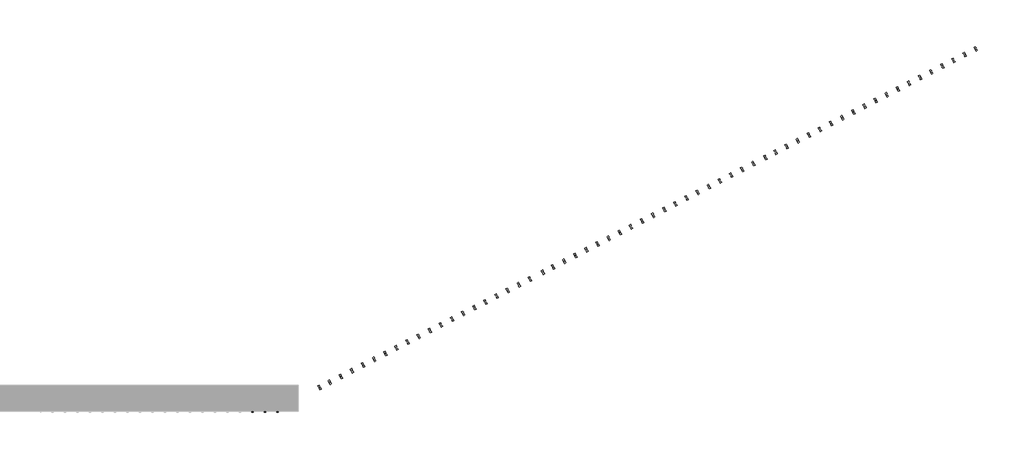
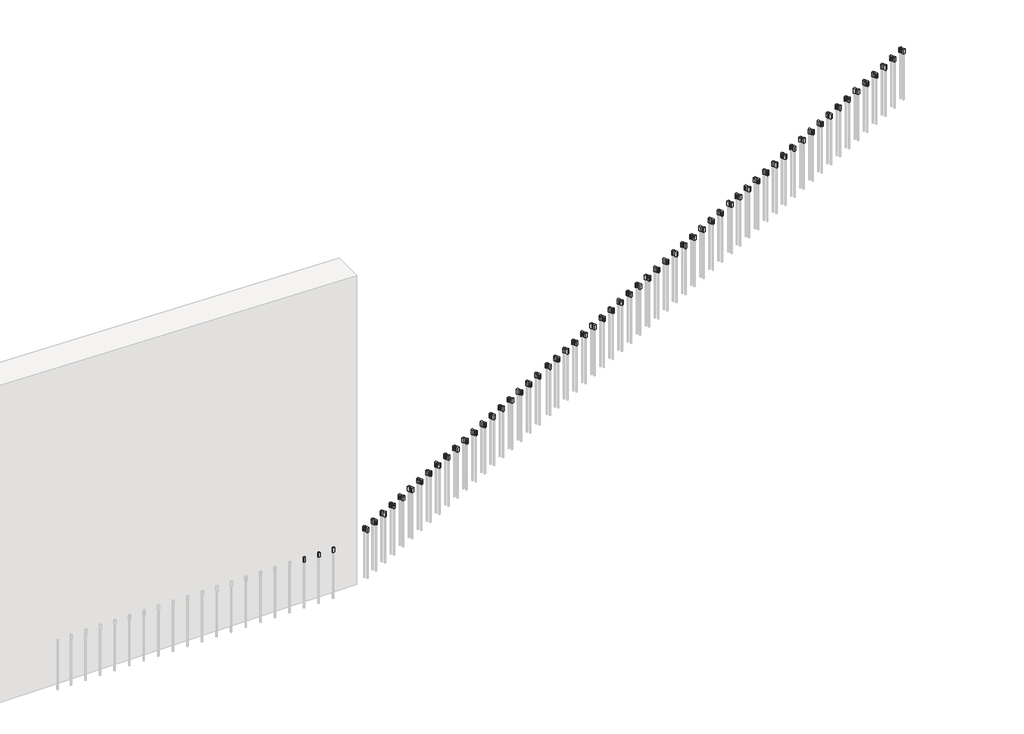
# One storey, part 7 of 7: 130 proxies.
"""IFC4 building model written with IfcOpenShell, lengths in millimetres."""

from ifc_helpers import new_model, si_unit, origin, place, context, project, spatial, transform, mapped, element, save
from components import generic_models_e9040c9c

model = new_model("IFC4")

# Units and contexts
model_context = context("Model", 3, world=origin())
ifc_project = project(units=[si_unit("LENGTHUNIT", "METRE", prefix="MILLI")], contexts=[model_context])

# Site, building, storey
site = spatial("IfcSite", under=ifc_project)
building = spatial("IfcBuilding", under=site)
storey = spatial("IfcBuildingStorey", under=building, Name="Niveau bas piédroits", Elevation=1000.0)

# Proxies
placement = place(None, origin())
generic_models_shape = generic_models_e9040c9c(model_context)
element("IfcBuildingElementProxy", 1, Name="Bouchon de sécurité vertical : Bouchon de sécurité vertical", ObjectType="Bouchon de sécurité vertical : Bouchon de sécurité vertical", at=placement, inside=storey, context=model_context, shape_type="MappedRepresentation", body=[
    mapped(generic_models_shape, transform((10170.5759064, 5057.4338661, 1708.9775513), x_axis=(1.0, 0.0, 0.0), y_axis=(0.0, 1.0, 0.0), z_axis=(0.0, 0.0, 1.0))),
])
element("IfcBuildingElementProxy", 2, Name="Bouchon de sécurité vertical : Bouchon de sécurité vertical", ObjectType="Bouchon de sécurité vertical : Bouchon de sécurité vertical", at=placement, inside=storey, context=model_context, shape_type="MappedRepresentation", body=[
    mapped(generic_models_shape, transform((10410.5759064, 5057.4338661, 1708.9775513), x_axis=(1.0, 0.0, 0.0), y_axis=(0.0, 1.0, 0.0), z_axis=(0.0, 0.0, 1.0))),
])
element("IfcBuildingElementProxy", 3, Name="Bouchon de sécurité vertical : Bouchon de sécurité vertical", ObjectType="Bouchon de sécurité vertical : Bouchon de sécurité vertical", at=placement, inside=storey, context=model_context, shape_type="MappedRepresentation", body=[
    mapped(generic_models_shape, transform((10650.5759064, 5057.4338661, 1708.9775513), x_axis=(1.0, 0.0, 0.0), y_axis=(0.0, 1.0, 0.0), z_axis=(0.0, 0.0, 1.0))),
])
element("IfcBuildingElementProxy", 4, Name="Bouchon de sécurité vertical : Bouchon de sécurité vertical", ObjectType="Bouchon de sécurité vertical : Bouchon de sécurité vertical", at=placement, inside=storey, context=model_context, shape_type="MappedRepresentation", body=[
    mapped(generic_models_shape, transform((9450.5759064, 5337.4338661, 1708.9775513), x_axis=(1.0, 0.0, 0.0), y_axis=(0.0, 1.0, 0.0), z_axis=(0.0, 0.0, 1.0))),
])
element("IfcBuildingElementProxy", 5, Name="Bouchon de sécurité vertical : Bouchon de sécurité vertical", ObjectType="Bouchon de sécurité vertical : Bouchon de sécurité vertical", at=placement, inside=storey, context=model_context, shape_type="MappedRepresentation", body=[
    mapped(generic_models_shape, transform((9210.5759064, 5337.4338661, 1708.9775513), x_axis=(1.0, 0.0, 0.0), y_axis=(0.0, 1.0, 0.0), z_axis=(0.0, 0.0, 1.0))),
])
element("IfcBuildingElementProxy", 6, Name="Bouchon de sécurité vertical : Bouchon de sécurité vertical", ObjectType="Bouchon de sécurité vertical : Bouchon de sécurité vertical", at=placement, inside=storey, context=model_context, shape_type="MappedRepresentation", body=[
    mapped(generic_models_shape, transform((9690.5759064, 5337.4338661, 1708.9775513), x_axis=(1.0, 0.0, 0.0), y_axis=(0.0, 1.0, 0.0), z_axis=(0.0, 0.0, 1.0))),
])
element("IfcBuildingElementProxy", 7, Name="Bouchon de sécurité vertical : Bouchon de sécurité vertical", ObjectType="Bouchon de sécurité vertical : Bouchon de sécurité vertical", at=placement, inside=storey, context=model_context, shape_type="MappedRepresentation", body=[
    mapped(generic_models_shape, transform((9930.5759064, 5337.4338661, 1708.9775513), x_axis=(1.0, 0.0, 0.0), y_axis=(0.0, 1.0, 0.0), z_axis=(0.0, 0.0, 1.0))),
])
element("IfcBuildingElementProxy", 8, Name="Bouchon de sécurité vertical : Bouchon de sécurité vertical", ObjectType="Bouchon de sécurité vertical : Bouchon de sécurité vertical", at=placement, inside=storey, context=model_context, shape_type="MappedRepresentation", body=[
    mapped(generic_models_shape, transform((10170.5759064, 5337.4338661, 1708.9775513), x_axis=(1.0, 0.0, 0.0), y_axis=(0.0, 1.0, 0.0), z_axis=(0.0, 0.0, 1.0))),
])
element("IfcBuildingElementProxy", 9, Name="Bouchon de sécurité vertical : Bouchon de sécurité vertical", ObjectType="Bouchon de sécurité vertical : Bouchon de sécurité vertical", at=placement, inside=storey, context=model_context, shape_type="MappedRepresentation", body=[
    mapped(generic_models_shape, transform((10410.5759064, 5337.4338661, 1708.9775513), x_axis=(1.0, 0.0, 0.0), y_axis=(0.0, 1.0, 0.0), z_axis=(0.0, 0.0, 1.0))),
])
element("IfcBuildingElementProxy", 10, Name="Bouchon de sécurité vertical : Bouchon de sécurité vertical", ObjectType="Bouchon de sécurité vertical : Bouchon de sécurité vertical", at=placement, inside=storey, context=model_context, shape_type="MappedRepresentation", body=[
    mapped(generic_models_shape, transform((10650.5759064, 5337.4338661, 1708.9775513), x_axis=(1.0, 0.0, 0.0), y_axis=(0.0, 1.0, 0.0), z_axis=(0.0, 0.0, 1.0))),
])
element("IfcBuildingElementProxy", 11, Name="Bouchon de sécurité vertical : Bouchon de sécurité vertical", ObjectType="Bouchon de sécurité vertical : Bouchon de sécurité vertical", at=placement, inside=storey, context=model_context, shape_type="MappedRepresentation", body=[
    mapped(generic_models_shape, transform((13998.6651703, 6819.5332228, 1504.6594135), x_axis=(0.8886485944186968, 0.45858878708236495, 0.0), y_axis=(-0.45858878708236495, 0.8886485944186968, 0.0), z_axis=(0.0, 0.0, 1.0))),
])
element("IfcBuildingElementProxy", 12, Name="Bouchon de sécurité vertical : Bouchon de sécurité vertical", ObjectType="Bouchon de sécurité vertical : Bouchon de sécurité vertical", at=placement, inside=storey, context=model_context, shape_type="MappedRepresentation", body=[
    mapped(generic_models_shape, transform((13785.3895076, 6709.4719139, 1504.6594135), x_axis=(0.8886485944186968, 0.45858878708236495, 0.0), y_axis=(-0.45858878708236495, 0.8886485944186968, 0.0), z_axis=(0.0, 0.0, 1.0))),
])
element("IfcBuildingElementProxy", 13, Name="Bouchon de sécurité vertical : Bouchon de sécurité vertical", ObjectType="Bouchon de sécurité vertical : Bouchon de sécurité vertical", at=placement, inside=storey, context=model_context, shape_type="MappedRepresentation", body=[
    mapped(generic_models_shape, transform((13572.113845, 6599.410605, 1504.6594135), x_axis=(0.8886485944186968, 0.45858878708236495, 0.0), y_axis=(-0.45858878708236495, 0.8886485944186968, 0.0), z_axis=(0.0, 0.0, 1.0))),
])
element("IfcBuildingElementProxy", 14, Name="Bouchon de sécurité vertical : Bouchon de sécurité vertical", ObjectType="Bouchon de sécurité vertical : Bouchon de sécurité vertical", at=placement, inside=storey, context=model_context, shape_type="MappedRepresentation", body=[
    mapped(generic_models_shape, transform((13358.8381823, 6489.3492961, 1504.6594135), x_axis=(0.8886485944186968, 0.45858878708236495, 0.0), y_axis=(-0.45858878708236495, 0.8886485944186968, 0.0), z_axis=(0.0, 0.0, 1.0))),
])
element("IfcBuildingElementProxy", 15, Name="Bouchon de sécurité vertical : Bouchon de sécurité vertical", ObjectType="Bouchon de sécurité vertical : Bouchon de sécurité vertical", at=placement, inside=storey, context=model_context, shape_type="MappedRepresentation", body=[
    mapped(generic_models_shape, transform((13145.5625196, 6379.2879872, 1504.6594135), x_axis=(0.8886485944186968, 0.45858878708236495, 0.0), y_axis=(-0.45858878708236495, 0.8886485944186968, 0.0), z_axis=(0.0, 0.0, 1.0))),
])
element("IfcBuildingElementProxy", 16, Name="Bouchon de sécurité vertical : Bouchon de sécurité vertical", ObjectType="Bouchon de sécurité vertical : Bouchon de sécurité vertical", at=placement, inside=storey, context=model_context, shape_type="MappedRepresentation", body=[
    mapped(generic_models_shape, transform((12932.286857, 6269.2266783, 1504.6594135), x_axis=(0.8886485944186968, 0.45858878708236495, 0.0), y_axis=(-0.45858878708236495, 0.8886485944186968, 0.0), z_axis=(0.0, 0.0, 1.0))),
])
element("IfcBuildingElementProxy", 17, Name="Bouchon de sécurité vertical : Bouchon de sécurité vertical", ObjectType="Bouchon de sécurité vertical : Bouchon de sécurité vertical", at=placement, inside=storey, context=model_context, shape_type="MappedRepresentation", body=[
    mapped(generic_models_shape, transform((12719.0111943, 6159.1653694, 1504.6594135), x_axis=(0.8886485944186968, 0.45858878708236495, 0.0), y_axis=(-0.45858878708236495, 0.8886485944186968, 0.0), z_axis=(0.0, 0.0, 1.0))),
])
element("IfcBuildingElementProxy", 18, Name="Bouchon de sécurité vertical : Bouchon de sécurité vertical", ObjectType="Bouchon de sécurité vertical : Bouchon de sécurité vertical", at=placement, inside=storey, context=model_context, shape_type="MappedRepresentation", body=[
    mapped(generic_models_shape, transform((12505.7355317, 6049.1040605, 1504.6594135), x_axis=(0.8886485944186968, 0.45858878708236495, 0.0), y_axis=(-0.45858878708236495, 0.8886485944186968, 0.0), z_axis=(0.0, 0.0, 1.0))),
])
element("IfcBuildingElementProxy", 19, Name="Bouchon de sécurité vertical : Bouchon de sécurité vertical", ObjectType="Bouchon de sécurité vertical : Bouchon de sécurité vertical", at=placement, inside=storey, context=model_context, shape_type="MappedRepresentation", body=[
    mapped(generic_models_shape, transform((12292.459869, 5939.0427516, 1504.6594135), x_axis=(0.8886485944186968, 0.45858878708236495, 0.0), y_axis=(-0.45858878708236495, 0.8886485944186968, 0.0), z_axis=(0.0, 0.0, 1.0))),
])
element("IfcBuildingElementProxy", 20, Name="Bouchon de sécurité vertical : Bouchon de sécurité vertical", ObjectType="Bouchon de sécurité vertical : Bouchon de sécurité vertical", at=placement, inside=storey, context=model_context, shape_type="MappedRepresentation", body=[
    mapped(generic_models_shape, transform((12079.1842063, 5828.9814427, 1504.6594135), x_axis=(0.8886485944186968, 0.45858878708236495, 0.0), y_axis=(-0.45858878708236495, 0.8886485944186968, 0.0), z_axis=(0.0, 0.0, 1.0))),
])
element("IfcBuildingElementProxy", 21, Name="Bouchon de sécurité vertical : Bouchon de sécurité vertical", ObjectType="Bouchon de sécurité vertical : Bouchon de sécurité vertical", at=placement, inside=storey, context=model_context, shape_type="MappedRepresentation", body=[
    mapped(generic_models_shape, transform((11865.9085437, 5718.9201338, 1504.6594135), x_axis=(0.8886485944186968, 0.45858878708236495, 0.0), y_axis=(-0.45858878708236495, 0.8886485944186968, 0.0), z_axis=(0.0, 0.0, 1.0))),
])
element("IfcBuildingElementProxy", 22, Name="Bouchon de sécurité vertical : Bouchon de sécurité vertical", ObjectType="Bouchon de sécurité vertical : Bouchon de sécurité vertical", at=placement, inside=storey, context=model_context, shape_type="MappedRepresentation", body=[
    mapped(generic_models_shape, transform((11652.632881, 5608.8588249, 1504.6594135), x_axis=(0.8886485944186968, 0.45858878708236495, 0.0), y_axis=(-0.45858878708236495, 0.8886485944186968, 0.0), z_axis=(0.0, 0.0, 1.0))),
])
element("IfcBuildingElementProxy", 23, Name="Bouchon de sécurité vertical : Bouchon de sécurité vertical", ObjectType="Bouchon de sécurité vertical : Bouchon de sécurité vertical", at=placement, inside=storey, context=model_context, shape_type="MappedRepresentation", body=[
    mapped(generic_models_shape, transform((11457.1301902, 5507.9692918, 1504.6594135), x_axis=(0.8886485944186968, 0.45858878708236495, 0.0), y_axis=(-0.45858878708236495, 0.8886485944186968, 0.0), z_axis=(0.0, 0.0, 1.0))),
])
element("IfcBuildingElementProxy", 24, Name="Bouchon de sécurité vertical : Bouchon de sécurité vertical", ObjectType="Bouchon de sécurité vertical : Bouchon de sécurité vertical", at=placement, inside=storey, context=model_context, shape_type="MappedRepresentation", body=[
    mapped(generic_models_shape, transform((14211.9408329, 6929.5945317, 1504.6594135), x_axis=(0.8886485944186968, 0.45858878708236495, 0.0), y_axis=(-0.45858878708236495, 0.8886485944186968, 0.0), z_axis=(0.0, 0.0, 1.0))),
])
element("IfcBuildingElementProxy", 25, Name="Bouchon de sécurité vertical : Bouchon de sécurité vertical", ObjectType="Bouchon de sécurité vertical : Bouchon de sécurité vertical", at=placement, inside=storey, context=model_context, shape_type="MappedRepresentation", body=[
    mapped(generic_models_shape, transform((14425.2164956, 7039.6558406, 1504.6594135), x_axis=(0.8886485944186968, 0.45858878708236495, 0.0), y_axis=(-0.45858878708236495, 0.8886485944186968, 0.0), z_axis=(0.0, 0.0, 1.0))),
])
element("IfcBuildingElementProxy", 26, Name="Bouchon de sécurité vertical : Bouchon de sécurité vertical", ObjectType="Bouchon de sécurité vertical : Bouchon de sécurité vertical", at=placement, inside=storey, context=model_context, shape_type="MappedRepresentation", body=[
    mapped(generic_models_shape, transform((15740.4927724, 7718.4066497, 1504.6594135), x_axis=(0.8886485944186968, 0.45858878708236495, 0.0), y_axis=(-0.45858878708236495, 0.8886485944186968, 0.0), z_axis=(0.0, 0.0, 1.0))),
])
element("IfcBuildingElementProxy", 27, Name="Bouchon de sécurité vertical : Bouchon de sécurité vertical", ObjectType="Bouchon de sécurité vertical : Bouchon de sécurité vertical", at=placement, inside=storey, context=model_context, shape_type="MappedRepresentation", body=[
    mapped(generic_models_shape, transform((15491.5948089, 7589.9623851, 1504.6594135), x_axis=(0.8886485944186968, 0.45858878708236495, 0.0), y_axis=(-0.45858878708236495, 0.8886485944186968, 0.0), z_axis=(0.0, 0.0, 1.0))),
])
element("IfcBuildingElementProxy", 28, Name="Bouchon de sécurité vertical : Bouchon de sécurité vertical", ObjectType="Bouchon de sécurité vertical : Bouchon de sécurité vertical", at=placement, inside=storey, context=model_context, shape_type="MappedRepresentation", body=[
    mapped(generic_models_shape, transform((15278.3191462, 7479.9010762, 1504.6594135), x_axis=(0.8886485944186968, 0.45858878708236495, 0.0), y_axis=(-0.45858878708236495, 0.8886485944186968, 0.0), z_axis=(0.0, 0.0, 1.0))),
])
element("IfcBuildingElementProxy", 29, Name="Bouchon de sécurité vertical : Bouchon de sécurité vertical", ObjectType="Bouchon de sécurité vertical : Bouchon de sécurité vertical", at=placement, inside=storey, context=model_context, shape_type="MappedRepresentation", body=[
    mapped(generic_models_shape, transform((15065.0434836, 7369.8397673, 1504.6594135), x_axis=(0.8886485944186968, 0.45858878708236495, 0.0), y_axis=(-0.45858878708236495, 0.8886485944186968, 0.0), z_axis=(0.0, 0.0, 1.0))),
])
element("IfcBuildingElementProxy", 30, Name="Bouchon de sécurité vertical : Bouchon de sécurité vertical", ObjectType="Bouchon de sécurité vertical : Bouchon de sécurité vertical", at=placement, inside=storey, context=model_context, shape_type="MappedRepresentation", body=[
    mapped(generic_models_shape, transform((14851.7678209, 7259.7784584, 1504.6594135), x_axis=(0.8886485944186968, 0.45858878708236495, 0.0), y_axis=(-0.45858878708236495, 0.8886485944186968, 0.0), z_axis=(0.0, 0.0, 1.0))),
])
element("IfcBuildingElementProxy", 31, Name="Bouchon de sécurité vertical : Bouchon de sécurité vertical", ObjectType="Bouchon de sécurité vertical : Bouchon de sécurité vertical", at=placement, inside=storey, context=model_context, shape_type="MappedRepresentation", body=[
    mapped(generic_models_shape, transform((14638.4921583, 7149.7171495, 1504.6594135), x_axis=(0.8886485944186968, 0.45858878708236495, 0.0), y_axis=(-0.45858878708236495, 0.8886485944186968, 0.0), z_axis=(0.0, 0.0, 1.0))),
])
element("IfcBuildingElementProxy", 32, Name="Bouchon de sécurité vertical : Bouchon de sécurité vertical", ObjectType="Bouchon de sécurité vertical : Bouchon de sécurité vertical", at=placement, inside=storey, context=model_context, shape_type="MappedRepresentation", body=[
    mapped(generic_models_shape, transform((15935.9191061, 7819.2567787, 1504.6594135), x_axis=(0.8886485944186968, 0.45858878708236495, 0.0), y_axis=(-0.45858878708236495, 0.8886485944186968, 0.0), z_axis=(0.0, 0.0, 1.0))),
])
element("IfcBuildingElementProxy", 33, Name="Bouchon de sécurité vertical : Bouchon de sécurité vertical", ObjectType="Bouchon de sécurité vertical : Bouchon de sécurité vertical", at=placement, inside=storey, context=model_context, shape_type="MappedRepresentation", body=[
    mapped(generic_models_shape, transform((16149.1947688, 7929.3180876, 1504.6594135), x_axis=(0.8886485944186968, 0.45858878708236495, 0.0), y_axis=(-0.45858878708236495, 0.8886485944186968, 0.0), z_axis=(0.0, 0.0, 1.0))),
])
element("IfcBuildingElementProxy", 34, Name="Bouchon de sécurité vertical : Bouchon de sécurité vertical", ObjectType="Bouchon de sécurité vertical : Bouchon de sécurité vertical", at=placement, inside=storey, context=model_context, shape_type="MappedRepresentation", body=[
    mapped(generic_models_shape, transform((18708.5027207, 9250.0537944, 1504.6594135), x_axis=(0.8886485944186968, 0.45858878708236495, 0.0), y_axis=(-0.45858878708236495, 0.8886485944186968, 0.0), z_axis=(0.0, 0.0, 1.0))),
])
element("IfcBuildingElementProxy", 35, Name="Bouchon de sécurité vertical : Bouchon de sécurité vertical", ObjectType="Bouchon de sécurité vertical : Bouchon de sécurité vertical", at=placement, inside=storey, context=model_context, shape_type="MappedRepresentation", body=[
    mapped(generic_models_shape, transform((18495.227058, 9139.9924855, 1504.6594135), x_axis=(0.8886485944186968, 0.45858878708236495, 0.0), y_axis=(-0.45858878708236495, 0.8886485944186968, 0.0), z_axis=(0.0, 0.0, 1.0))),
])
element("IfcBuildingElementProxy", 36, Name="Bouchon de sécurité vertical : Bouchon de sécurité vertical", ObjectType="Bouchon de sécurité vertical : Bouchon de sécurité vertical", at=placement, inside=storey, context=model_context, shape_type="MappedRepresentation", body=[
    mapped(generic_models_shape, transform((18281.9513954, 9029.9311766, 1504.6594135), x_axis=(0.8886485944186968, 0.45858878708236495, 0.0), y_axis=(-0.45858878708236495, 0.8886485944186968, 0.0), z_axis=(0.0, 0.0, 1.0))),
])
element("IfcBuildingElementProxy", 37, Name="Bouchon de sécurité vertical : Bouchon de sécurité vertical", ObjectType="Bouchon de sécurité vertical : Bouchon de sécurité vertical", at=placement, inside=storey, context=model_context, shape_type="MappedRepresentation", body=[
    mapped(generic_models_shape, transform((18068.6757327, 8919.8698677, 1504.6594135), x_axis=(0.8886485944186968, 0.45858878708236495, 0.0), y_axis=(-0.45858878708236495, 0.8886485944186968, 0.0), z_axis=(0.0, 0.0, 1.0))),
])
element("IfcBuildingElementProxy", 38, Name="Bouchon de sécurité vertical : Bouchon de sécurité vertical", ObjectType="Bouchon de sécurité vertical : Bouchon de sécurité vertical", at=placement, inside=storey, context=model_context, shape_type="MappedRepresentation", body=[
    mapped(generic_models_shape, transform((17855.4000701, 8809.8085588, 1504.6594135), x_axis=(0.8886485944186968, 0.45858878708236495, 0.0), y_axis=(-0.45858878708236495, 0.8886485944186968, 0.0), z_axis=(0.0, 0.0, 1.0))),
])
element("IfcBuildingElementProxy", 39, Name="Bouchon de sécurité vertical : Bouchon de sécurité vertical", ObjectType="Bouchon de sécurité vertical : Bouchon de sécurité vertical", at=placement, inside=storey, context=model_context, shape_type="MappedRepresentation", body=[
    mapped(generic_models_shape, transform((17642.1244074, 8699.7472499, 1504.6594135), x_axis=(0.8886485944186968, 0.45858878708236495, 0.0), y_axis=(-0.45858878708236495, 0.8886485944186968, 0.0), z_axis=(0.0, 0.0, 1.0))),
])
element("IfcBuildingElementProxy", 40, Name="Bouchon de sécurité vertical : Bouchon de sécurité vertical", ObjectType="Bouchon de sécurité vertical : Bouchon de sécurité vertical", at=placement, inside=storey, context=model_context, shape_type="MappedRepresentation", body=[
    mapped(generic_models_shape, transform((18921.7783834, 9360.1151033, 1504.6594135), x_axis=(0.8886485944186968, 0.45858878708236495, 0.0), y_axis=(-0.45858878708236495, 0.8886485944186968, 0.0), z_axis=(0.0, 0.0, 1.0))),
])
element("IfcBuildingElementProxy", 41, Name="Bouchon de sécurité vertical : Bouchon de sécurité vertical", ObjectType="Bouchon de sécurité vertical : Bouchon de sécurité vertical", at=placement, inside=storey, context=model_context, shape_type="MappedRepresentation", body=[
    mapped(generic_models_shape, transform((19135.054046, 9470.1764122, 1504.6594135), x_axis=(0.8886485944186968, 0.45858878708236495, 0.0), y_axis=(-0.45858878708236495, 0.8886485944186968, 0.0), z_axis=(0.0, 0.0, 1.0))),
])
element("IfcBuildingElementProxy", 42, Name="Bouchon de sécurité vertical : Bouchon de sécurité vertical", ObjectType="Bouchon de sécurité vertical : Bouchon de sécurité vertical", at=placement, inside=storey, context=model_context, shape_type="MappedRepresentation", body=[
    mapped(generic_models_shape, transform((16362.4704314, 8039.3793965, 1504.6594135), x_axis=(0.8886485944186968, 0.45858878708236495, 0.0), y_axis=(-0.45858878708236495, 0.8886485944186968, 0.0), z_axis=(0.0, 0.0, 1.0))),
])
element("IfcBuildingElementProxy", 43, Name="Bouchon de sécurité vertical : Bouchon de sécurité vertical", ObjectType="Bouchon de sécurité vertical : Bouchon de sécurité vertical", at=placement, inside=storey, context=model_context, shape_type="MappedRepresentation", body=[
    mapped(generic_models_shape, transform((16575.7460941, 8149.4407054, 1504.6594135), x_axis=(0.8886485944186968, 0.45858878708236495, 0.0), y_axis=(-0.45858878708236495, 0.8886485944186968, 0.0), z_axis=(0.0, 0.0, 1.0))),
])
element("IfcBuildingElementProxy", 44, Name="Bouchon de sécurité vertical : Bouchon de sécurité vertical", ObjectType="Bouchon de sécurité vertical : Bouchon de sécurité vertical", at=placement, inside=storey, context=model_context, shape_type="MappedRepresentation", body=[
    mapped(generic_models_shape, transform((16789.0217568, 8259.5020143, 1504.6594135), x_axis=(0.8886485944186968, 0.45858878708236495, 0.0), y_axis=(-0.45858878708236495, 0.8886485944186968, 0.0), z_axis=(0.0, 0.0, 1.0))),
])
element("IfcBuildingElementProxy", 45, Name="Bouchon de sécurité vertical : Bouchon de sécurité vertical", ObjectType="Bouchon de sécurité vertical : Bouchon de sécurité vertical", at=placement, inside=storey, context=model_context, shape_type="MappedRepresentation", body=[
    mapped(generic_models_shape, transform((17002.2974194, 8369.5633232, 1504.6594135), x_axis=(0.8886485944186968, 0.45858878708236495, 0.0), y_axis=(-0.45858878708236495, 0.8886485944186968, 0.0), z_axis=(0.0, 0.0, 1.0))),
])
element("IfcBuildingElementProxy", 46, Name="Bouchon de sécurité vertical : Bouchon de sécurité vertical", ObjectType="Bouchon de sécurité vertical : Bouchon de sécurité vertical", at=placement, inside=storey, context=model_context, shape_type="MappedRepresentation", body=[
    mapped(generic_models_shape, transform((17215.094794, 8479.3778106, 1504.6594135), x_axis=(0.8886485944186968, 0.45858878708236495, 0.0), y_axis=(-0.45858878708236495, 0.8886485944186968, 0.0), z_axis=(0.0, 0.0, 1.0))),
])
element("IfcBuildingElementProxy", 47, Name="Bouchon de sécurité vertical : Bouchon de sécurité vertical", ObjectType="Bouchon de sécurité vertical : Bouchon de sécurité vertical", at=placement, inside=storey, context=model_context, shape_type="MappedRepresentation", body=[
    mapped(generic_models_shape, transform((17428.3704566, 8589.4391195, 1504.6594135), x_axis=(0.8886485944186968, 0.45858878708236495, 0.0), y_axis=(-0.45858878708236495, 0.8886485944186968, 0.0), z_axis=(0.0, 0.0, 1.0))),
])
element("IfcBuildingElementProxy", 48, Name="Bouchon de sécurité vertical : Bouchon de sécurité vertical", ObjectType="Bouchon de sécurité vertical : Bouchon de sécurité vertical", at=placement, inside=storey, context=model_context, shape_type="MappedRepresentation", body=[
    mapped(generic_models_shape, transform((19348.3297087, 9580.2377211, 1504.6594135), x_axis=(0.8886485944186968, 0.45858878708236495, 0.0), y_axis=(-0.45858878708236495, 0.8886485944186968, 0.0), z_axis=(0.0, 0.0, 1.0))),
])
element("IfcBuildingElementProxy", 49, Name="Bouchon de sécurité vertical : Bouchon de sécurité vertical", ObjectType="Bouchon de sécurité vertical : Bouchon de sécurité vertical", at=placement, inside=storey, context=model_context, shape_type="MappedRepresentation", body=[
    mapped(generic_models_shape, transform((19561.6053713, 9690.29903, 1504.6594135), x_axis=(0.8886485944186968, 0.45858878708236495, 0.0), y_axis=(-0.45858878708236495, 0.8886485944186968, 0.0), z_axis=(0.0, 0.0, 1.0))),
])
element("IfcBuildingElementProxy", 50, Name="Bouchon de sécurité vertical : Bouchon de sécurité vertical", ObjectType="Bouchon de sécurité vertical : Bouchon de sécurité vertical", at=placement, inside=storey, context=model_context, shape_type="MappedRepresentation", body=[
    mapped(generic_models_shape, transform((19774.881034, 9800.3603389, 1504.6594135), x_axis=(0.8886485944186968, 0.45858878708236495, 0.0), y_axis=(-0.45858878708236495, 0.8886485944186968, 0.0), z_axis=(0.0, 0.0, 1.0))),
])
element("IfcBuildingElementProxy", 51, Name="Bouchon de sécurité vertical : Bouchon de sécurité vertical", ObjectType="Bouchon de sécurité vertical : Bouchon de sécurité vertical", at=placement, inside=storey, context=model_context, shape_type="MappedRepresentation", body=[
    mapped(generic_models_shape, transform((13973.442787, 6868.4088955, 1504.6594135), x_axis=(0.8886485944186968, 0.45858878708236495, 0.0), y_axis=(-0.45858878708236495, 0.8886485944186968, 0.0), z_axis=(0.0, 0.0, 1.0))),
])
element("IfcBuildingElementProxy", 52, Name="Bouchon de sécurité vertical : Bouchon de sécurité vertical", ObjectType="Bouchon de sécurité vertical : Bouchon de sécurité vertical", at=placement, inside=storey, context=model_context, shape_type="MappedRepresentation", body=[
    mapped(generic_models_shape, transform((13760.1671243, 6758.3475866, 1504.6594135), x_axis=(0.8886485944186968, 0.45858878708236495, 0.0), y_axis=(-0.45858878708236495, 0.8886485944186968, 0.0), z_axis=(0.0, 0.0, 1.0))),
])
element("IfcBuildingElementProxy", 53, Name="Bouchon de sécurité vertical : Bouchon de sécurité vertical", ObjectType="Bouchon de sécurité vertical : Bouchon de sécurité vertical", at=placement, inside=storey, context=model_context, shape_type="MappedRepresentation", body=[
    mapped(generic_models_shape, transform((13546.8914617, 6648.2862777, 1504.6594135), x_axis=(0.8886485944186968, 0.45858878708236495, 0.0), y_axis=(-0.45858878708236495, 0.8886485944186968, 0.0), z_axis=(0.0, 0.0, 1.0))),
])
element("IfcBuildingElementProxy", 54, Name="Bouchon de sécurité vertical : Bouchon de sécurité vertical", ObjectType="Bouchon de sécurité vertical : Bouchon de sécurité vertical", at=placement, inside=storey, context=model_context, shape_type="MappedRepresentation", body=[
    mapped(generic_models_shape, transform((13333.615799, 6538.2249688, 1504.6594135), x_axis=(0.8886485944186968, 0.45858878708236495, 0.0), y_axis=(-0.45858878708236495, 0.8886485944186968, 0.0), z_axis=(0.0, 0.0, 1.0))),
])
element("IfcBuildingElementProxy", 55, Name="Bouchon de sécurité vertical : Bouchon de sécurité vertical", ObjectType="Bouchon de sécurité vertical : Bouchon de sécurité vertical", at=placement, inside=storey, context=model_context, shape_type="MappedRepresentation", body=[
    mapped(generic_models_shape, transform((13120.3401363, 6428.1636599, 1504.6594135), x_axis=(0.8886485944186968, 0.45858878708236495, 0.0), y_axis=(-0.45858878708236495, 0.8886485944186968, 0.0), z_axis=(0.0, 0.0, 1.0))),
])
element("IfcBuildingElementProxy", 56, Name="Bouchon de sécurité vertical : Bouchon de sécurité vertical", ObjectType="Bouchon de sécurité vertical : Bouchon de sécurité vertical", at=placement, inside=storey, context=model_context, shape_type="MappedRepresentation", body=[
    mapped(generic_models_shape, transform((12907.0644737, 6318.102351, 1504.6594135), x_axis=(0.8886485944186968, 0.45858878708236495, 0.0), y_axis=(-0.45858878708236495, 0.8886485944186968, 0.0), z_axis=(0.0, 0.0, 1.0))),
])
element("IfcBuildingElementProxy", 57, Name="Bouchon de sécurité vertical : Bouchon de sécurité vertical", ObjectType="Bouchon de sécurité vertical : Bouchon de sécurité vertical", at=placement, inside=storey, context=model_context, shape_type="MappedRepresentation", body=[
    mapped(generic_models_shape, transform((12693.788811, 6208.0410421, 1504.6594135), x_axis=(0.8886485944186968, 0.45858878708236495, 0.0), y_axis=(-0.45858878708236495, 0.8886485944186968, 0.0), z_axis=(0.0, 0.0, 1.0))),
])
element("IfcBuildingElementProxy", 58, Name="Bouchon de sécurité vertical : Bouchon de sécurité vertical", ObjectType="Bouchon de sécurité vertical : Bouchon de sécurité vertical", at=placement, inside=storey, context=model_context, shape_type="MappedRepresentation", body=[
    mapped(generic_models_shape, transform((12480.5131484, 6097.9797332, 1504.6594135), x_axis=(0.8886485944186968, 0.45858878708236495, 0.0), y_axis=(-0.45858878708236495, 0.8886485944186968, 0.0), z_axis=(0.0, 0.0, 1.0))),
])
element("IfcBuildingElementProxy", 59, Name="Bouchon de sécurité vertical : Bouchon de sécurité vertical", ObjectType="Bouchon de sécurité vertical : Bouchon de sécurité vertical", at=placement, inside=storey, context=model_context, shape_type="MappedRepresentation", body=[
    mapped(generic_models_shape, transform((12267.2374857, 5987.9184243, 1504.6594135), x_axis=(0.8886485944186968, 0.45858878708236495, 0.0), y_axis=(-0.45858878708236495, 0.8886485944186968, 0.0), z_axis=(0.0, 0.0, 1.0))),
])
element("IfcBuildingElementProxy", 60, Name="Bouchon de sécurité vertical : Bouchon de sécurité vertical", ObjectType="Bouchon de sécurité vertical : Bouchon de sécurité vertical", at=placement, inside=storey, context=model_context, shape_type="MappedRepresentation", body=[
    mapped(generic_models_shape, transform((12053.961823, 5877.8571154, 1504.6594135), x_axis=(0.8886485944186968, 0.45858878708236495, 0.0), y_axis=(-0.45858878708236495, 0.8886485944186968, 0.0), z_axis=(0.0, 0.0, 1.0))),
])
element("IfcBuildingElementProxy", 61, Name="Bouchon de sécurité vertical : Bouchon de sécurité vertical", ObjectType="Bouchon de sécurité vertical : Bouchon de sécurité vertical", at=placement, inside=storey, context=model_context, shape_type="MappedRepresentation", body=[
    mapped(generic_models_shape, transform((11840.6861604, 5767.7958065, 1504.6594135), x_axis=(0.8886485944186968, 0.45858878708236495, 0.0), y_axis=(-0.45858878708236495, 0.8886485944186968, 0.0), z_axis=(0.0, 0.0, 1.0))),
])
element("IfcBuildingElementProxy", 62, Name="Bouchon de sécurité vertical : Bouchon de sécurité vertical", ObjectType="Bouchon de sécurité vertical : Bouchon de sécurité vertical", at=placement, inside=storey, context=model_context, shape_type="MappedRepresentation", body=[
    mapped(generic_models_shape, transform((11627.4104977, 5657.7344976, 1504.6594135), x_axis=(0.8886485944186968, 0.45858878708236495, 0.0), y_axis=(-0.45858878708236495, 0.8886485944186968, 0.0), z_axis=(0.0, 0.0, 1.0))),
])
element("IfcBuildingElementProxy", 63, Name="Bouchon de sécurité vertical : Bouchon de sécurité vertical", ObjectType="Bouchon de sécurité vertical : Bouchon de sécurité vertical", at=placement, inside=storey, context=model_context, shape_type="MappedRepresentation", body=[
    mapped(generic_models_shape, transform((11431.907807, 5556.8449645, 1504.6594135), x_axis=(0.8886485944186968, 0.45858878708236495, 0.0), y_axis=(-0.45858878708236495, 0.8886485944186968, 0.0), z_axis=(0.0, 0.0, 1.0))),
])
element("IfcBuildingElementProxy", 64, Name="Bouchon de sécurité vertical : Bouchon de sécurité vertical", ObjectType="Bouchon de sécurité vertical : Bouchon de sécurité vertical", at=placement, inside=storey, context=model_context, shape_type="MappedRepresentation", body=[
    mapped(generic_models_shape, transform((14186.7184496, 6978.4702044, 1504.6594135), x_axis=(0.8886485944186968, 0.45858878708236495, 0.0), y_axis=(-0.45858878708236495, 0.8886485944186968, 0.0), z_axis=(0.0, 0.0, 1.0))),
])
element("IfcBuildingElementProxy", 65, Name="Bouchon de sécurité vertical : Bouchon de sécurité vertical", ObjectType="Bouchon de sécurité vertical : Bouchon de sécurité vertical", at=placement, inside=storey, context=model_context, shape_type="MappedRepresentation", body=[
    mapped(generic_models_shape, transform((14399.9941123, 7088.5315133, 1504.6594135), x_axis=(0.8886485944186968, 0.45858878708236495, 0.0), y_axis=(-0.45858878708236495, 0.8886485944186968, 0.0), z_axis=(0.0, 0.0, 1.0))),
])
element("IfcBuildingElementProxy", 66, Name="Bouchon de sécurité vertical : Bouchon de sécurité vertical", ObjectType="Bouchon de sécurité vertical : Bouchon de sécurité vertical", at=placement, inside=storey, context=model_context, shape_type="MappedRepresentation", body=[
    mapped(generic_models_shape, transform((15715.2703892, 7767.2823224, 1504.6594135), x_axis=(0.8886485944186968, 0.45858878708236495, 0.0), y_axis=(-0.45858878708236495, 0.8886485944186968, 0.0), z_axis=(0.0, 0.0, 1.0))),
])
element("IfcBuildingElementProxy", 67, Name="Bouchon de sécurité vertical : Bouchon de sécurité vertical", ObjectType="Bouchon de sécurité vertical : Bouchon de sécurité vertical", at=placement, inside=storey, context=model_context, shape_type="MappedRepresentation", body=[
    mapped(generic_models_shape, transform((15466.3724256, 7638.8380578, 1504.6594135), x_axis=(0.8886485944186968, 0.45858878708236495, 0.0), y_axis=(-0.45858878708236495, 0.8886485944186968, 0.0), z_axis=(0.0, 0.0, 1.0))),
])
element("IfcBuildingElementProxy", 68, Name="Bouchon de sécurité vertical : Bouchon de sécurité vertical", ObjectType="Bouchon de sécurité vertical : Bouchon de sécurité vertical", at=placement, inside=storey, context=model_context, shape_type="MappedRepresentation", body=[
    mapped(generic_models_shape, transform((15253.096763, 7528.7767489, 1504.6594135), x_axis=(0.8886485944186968, 0.45858878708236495, 0.0), y_axis=(-0.45858878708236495, 0.8886485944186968, 0.0), z_axis=(0.0, 0.0, 1.0))),
])
element("IfcBuildingElementProxy", 69, Name="Bouchon de sécurité vertical : Bouchon de sécurité vertical", ObjectType="Bouchon de sécurité vertical : Bouchon de sécurité vertical", at=placement, inside=storey, context=model_context, shape_type="MappedRepresentation", body=[
    mapped(generic_models_shape, transform((15039.8211003, 7418.71544, 1504.6594135), x_axis=(0.8886485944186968, 0.45858878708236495, 0.0), y_axis=(-0.45858878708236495, 0.8886485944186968, 0.0), z_axis=(0.0, 0.0, 1.0))),
])
element("IfcBuildingElementProxy", 70, Name="Bouchon de sécurité vertical : Bouchon de sécurité vertical", ObjectType="Bouchon de sécurité vertical : Bouchon de sécurité vertical", at=placement, inside=storey, context=model_context, shape_type="MappedRepresentation", body=[
    mapped(generic_models_shape, transform((14826.5454376, 7308.6541311, 1504.6594135), x_axis=(0.8886485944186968, 0.45858878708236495, 0.0), y_axis=(-0.45858878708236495, 0.8886485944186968, 0.0), z_axis=(0.0, 0.0, 1.0))),
])
element("IfcBuildingElementProxy", 71, Name="Bouchon de sécurité vertical : Bouchon de sécurité vertical", ObjectType="Bouchon de sécurité vertical : Bouchon de sécurité vertical", at=placement, inside=storey, context=model_context, shape_type="MappedRepresentation", body=[
    mapped(generic_models_shape, transform((14613.269775, 7198.5928222, 1504.6594135), x_axis=(0.8886485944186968, 0.45858878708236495, 0.0), y_axis=(-0.45858878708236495, 0.8886485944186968, 0.0), z_axis=(0.0, 0.0, 1.0))),
])
element("IfcBuildingElementProxy", 72, Name="Bouchon de sécurité vertical : Bouchon de sécurité vertical", ObjectType="Bouchon de sécurité vertical : Bouchon de sécurité vertical", at=placement, inside=storey, context=model_context, shape_type="MappedRepresentation", body=[
    mapped(generic_models_shape, transform((15910.6967228, 7868.1324514, 1504.6594135), x_axis=(0.8886485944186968, 0.45858878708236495, 0.0), y_axis=(-0.45858878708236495, 0.8886485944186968, 0.0), z_axis=(0.0, 0.0, 1.0))),
])
element("IfcBuildingElementProxy", 73, Name="Bouchon de sécurité vertical : Bouchon de sécurité vertical", ObjectType="Bouchon de sécurité vertical : Bouchon de sécurité vertical", at=placement, inside=storey, context=model_context, shape_type="MappedRepresentation", body=[
    mapped(generic_models_shape, transform((16123.9723855, 7978.1937603, 1504.6594135), x_axis=(0.8886485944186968, 0.45858878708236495, 0.0), y_axis=(-0.45858878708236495, 0.8886485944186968, 0.0), z_axis=(0.0, 0.0, 1.0))),
])
element("IfcBuildingElementProxy", 74, Name="Bouchon de sécurité vertical : Bouchon de sécurité vertical", ObjectType="Bouchon de sécurité vertical : Bouchon de sécurité vertical", at=placement, inside=storey, context=model_context, shape_type="MappedRepresentation", body=[
    mapped(generic_models_shape, transform((18683.2803374, 9298.9294671, 1504.6594135), x_axis=(0.8886485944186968, 0.45858878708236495, 0.0), y_axis=(-0.45858878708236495, 0.8886485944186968, 0.0), z_axis=(0.0, 0.0, 1.0))),
])
element("IfcBuildingElementProxy", 75, Name="Bouchon de sécurité vertical : Bouchon de sécurité vertical", ObjectType="Bouchon de sécurité vertical : Bouchon de sécurité vertical", at=placement, inside=storey, context=model_context, shape_type="MappedRepresentation", body=[
    mapped(generic_models_shape, transform((18470.0046747, 9188.8681582, 1504.6594135), x_axis=(0.8886485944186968, 0.45858878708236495, 0.0), y_axis=(-0.45858878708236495, 0.8886485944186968, 0.0), z_axis=(0.0, 0.0, 1.0))),
])
element("IfcBuildingElementProxy", 76, Name="Bouchon de sécurité vertical : Bouchon de sécurité vertical", ObjectType="Bouchon de sécurité vertical : Bouchon de sécurité vertical", at=placement, inside=storey, context=model_context, shape_type="MappedRepresentation", body=[
    mapped(generic_models_shape, transform((18256.7290121, 9078.8068493, 1504.6594135), x_axis=(0.8886485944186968, 0.45858878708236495, 0.0), y_axis=(-0.45858878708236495, 0.8886485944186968, 0.0), z_axis=(0.0, 0.0, 1.0))),
])
element("IfcBuildingElementProxy", 77, Name="Bouchon de sécurité vertical : Bouchon de sécurité vertical", ObjectType="Bouchon de sécurité vertical : Bouchon de sécurité vertical", at=placement, inside=storey, context=model_context, shape_type="MappedRepresentation", body=[
    mapped(generic_models_shape, transform((18043.4533494, 8968.7455404, 1504.6594135), x_axis=(0.8886485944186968, 0.45858878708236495, 0.0), y_axis=(-0.45858878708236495, 0.8886485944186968, 0.0), z_axis=(0.0, 0.0, 1.0))),
])
element("IfcBuildingElementProxy", 78, Name="Bouchon de sécurité vertical : Bouchon de sécurité vertical", ObjectType="Bouchon de sécurité vertical : Bouchon de sécurité vertical", at=placement, inside=storey, context=model_context, shape_type="MappedRepresentation", body=[
    mapped(generic_models_shape, transform((17830.1776868, 8858.6842315, 1504.6594135), x_axis=(0.8886485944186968, 0.45858878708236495, 0.0), y_axis=(-0.45858878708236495, 0.8886485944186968, 0.0), z_axis=(0.0, 0.0, 1.0))),
])
element("IfcBuildingElementProxy", 79, Name="Bouchon de sécurité vertical : Bouchon de sécurité vertical", ObjectType="Bouchon de sécurité vertical : Bouchon de sécurité vertical", at=placement, inside=storey, context=model_context, shape_type="MappedRepresentation", body=[
    mapped(generic_models_shape, transform((17616.9020241, 8748.6229226, 1504.6594135), x_axis=(0.8886485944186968, 0.45858878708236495, 0.0), y_axis=(-0.45858878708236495, 0.8886485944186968, 0.0), z_axis=(0.0, 0.0, 1.0))),
])
element("IfcBuildingElementProxy", 80, Name="Bouchon de sécurité vertical : Bouchon de sécurité vertical", ObjectType="Bouchon de sécurité vertical : Bouchon de sécurité vertical", at=placement, inside=storey, context=model_context, shape_type="MappedRepresentation", body=[
    mapped(generic_models_shape, transform((18896.5560001, 9408.990776, 1504.6594135), x_axis=(0.8886485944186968, 0.45858878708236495, 0.0), y_axis=(-0.45858878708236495, 0.8886485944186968, 0.0), z_axis=(0.0, 0.0, 1.0))),
])
element("IfcBuildingElementProxy", 81, Name="Bouchon de sécurité vertical : Bouchon de sécurité vertical", ObjectType="Bouchon de sécurité vertical : Bouchon de sécurité vertical", at=placement, inside=storey, context=model_context, shape_type="MappedRepresentation", body=[
    mapped(generic_models_shape, transform((19109.8316627, 9519.0520849, 1504.6594135), x_axis=(0.8886485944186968, 0.45858878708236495, 0.0), y_axis=(-0.45858878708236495, 0.8886485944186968, 0.0), z_axis=(0.0, 0.0, 1.0))),
])
element("IfcBuildingElementProxy", 82, Name="Bouchon de sécurité vertical : Bouchon de sécurité vertical", ObjectType="Bouchon de sécurité vertical : Bouchon de sécurité vertical", at=placement, inside=storey, context=model_context, shape_type="MappedRepresentation", body=[
    mapped(generic_models_shape, transform((16337.2480481, 8088.2550692, 1504.6594135), x_axis=(0.8886485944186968, 0.45858878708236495, 0.0), y_axis=(-0.45858878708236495, 0.8886485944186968, 0.0), z_axis=(0.0, 0.0, 1.0))),
])
element("IfcBuildingElementProxy", 83, Name="Bouchon de sécurité vertical : Bouchon de sécurité vertical", ObjectType="Bouchon de sécurité vertical : Bouchon de sécurité vertical", at=placement, inside=storey, context=model_context, shape_type="MappedRepresentation", body=[
    mapped(generic_models_shape, transform((16550.5237108, 8198.3163781, 1504.6594135), x_axis=(0.8886485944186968, 0.45858878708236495, 0.0), y_axis=(-0.45858878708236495, 0.8886485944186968, 0.0), z_axis=(0.0, 0.0, 1.0))),
])
element("IfcBuildingElementProxy", 84, Name="Bouchon de sécurité vertical : Bouchon de sécurité vertical", ObjectType="Bouchon de sécurité vertical : Bouchon de sécurité vertical", at=placement, inside=storey, context=model_context, shape_type="MappedRepresentation", body=[
    mapped(generic_models_shape, transform((16763.7993735, 8308.377687, 1504.6594135), x_axis=(0.8886485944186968, 0.45858878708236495, 0.0), y_axis=(-0.45858878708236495, 0.8886485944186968, 0.0), z_axis=(0.0, 0.0, 1.0))),
])
element("IfcBuildingElementProxy", 85, Name="Bouchon de sécurité vertical : Bouchon de sécurité vertical", ObjectType="Bouchon de sécurité vertical : Bouchon de sécurité vertical", at=placement, inside=storey, context=model_context, shape_type="MappedRepresentation", body=[
    mapped(generic_models_shape, transform((16977.0750361, 8418.4389959, 1504.6594135), x_axis=(0.8886485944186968, 0.45858878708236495, 0.0), y_axis=(-0.45858878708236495, 0.8886485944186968, 0.0), z_axis=(0.0, 0.0, 1.0))),
])
element("IfcBuildingElementProxy", 86, Name="Bouchon de sécurité vertical : Bouchon de sécurité vertical", ObjectType="Bouchon de sécurité vertical : Bouchon de sécurité vertical", at=placement, inside=storey, context=model_context, shape_type="MappedRepresentation", body=[
    mapped(generic_models_shape, transform((17189.8724107, 8528.2534833, 1504.6594135), x_axis=(0.8886485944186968, 0.45858878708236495, 0.0), y_axis=(-0.45858878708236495, 0.8886485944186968, 0.0), z_axis=(0.0, 0.0, 1.0))),
])
element("IfcBuildingElementProxy", 87, Name="Bouchon de sécurité vertical : Bouchon de sécurité vertical", ObjectType="Bouchon de sécurité vertical : Bouchon de sécurité vertical", at=placement, inside=storey, context=model_context, shape_type="MappedRepresentation", body=[
    mapped(generic_models_shape, transform((17403.1480733, 8638.3147922, 1504.6594135), x_axis=(0.8886485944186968, 0.45858878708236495, 0.0), y_axis=(-0.45858878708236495, 0.8886485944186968, 0.0), z_axis=(0.0, 0.0, 1.0))),
])
element("IfcBuildingElementProxy", 88, Name="Bouchon de sécurité vertical : Bouchon de sécurité vertical", ObjectType="Bouchon de sécurité vertical : Bouchon de sécurité vertical", at=placement, inside=storey, context=model_context, shape_type="MappedRepresentation", body=[
    mapped(generic_models_shape, transform((19323.1073254, 9629.1133938, 1504.6594135), x_axis=(0.8886485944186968, 0.45858878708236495, 0.0), y_axis=(-0.45858878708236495, 0.8886485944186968, 0.0), z_axis=(0.0, 0.0, 1.0))),
])
element("IfcBuildingElementProxy", 89, Name="Bouchon de sécurité vertical : Bouchon de sécurité vertical", ObjectType="Bouchon de sécurité vertical : Bouchon de sécurité vertical", at=placement, inside=storey, context=model_context, shape_type="MappedRepresentation", body=[
    mapped(generic_models_shape, transform((19536.3829881, 9739.1747027, 1504.6594135), x_axis=(0.8886485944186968, 0.45858878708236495, 0.0), y_axis=(-0.45858878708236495, 0.8886485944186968, 0.0), z_axis=(0.0, 0.0, 1.0))),
])
element("IfcBuildingElementProxy", 90, Name="Bouchon de sécurité vertical : Bouchon de sécurité vertical", ObjectType="Bouchon de sécurité vertical : Bouchon de sécurité vertical", at=placement, inside=storey, context=model_context, shape_type="MappedRepresentation", body=[
    mapped(generic_models_shape, transform((19749.6586507, 9849.2360116, 1504.6594135), x_axis=(0.8886485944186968, 0.45858878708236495, 0.0), y_axis=(-0.45858878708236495, 0.8886485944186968, 0.0), z_axis=(0.0, 0.0, 1.0))),
])
element("IfcBuildingElementProxy", 91, Name="Bouchon de sécurité vertical : Bouchon de sécurité vertical", ObjectType="Bouchon de sécurité vertical : Bouchon de sécurité vertical", at=placement, inside=storey, context=model_context, shape_type="MappedRepresentation", body=[
    mapped(generic_models_shape, transform((22974.0159739, 11451.2799724, 1504.6594135), x_axis=(0.8886485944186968, 0.45858878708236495, 0.0), y_axis=(-0.45858878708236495, 0.8886485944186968, 0.0), z_axis=(0.0, 0.0, 1.0))),
])
element("IfcBuildingElementProxy", 92, Name="Bouchon de sécurité vertical : Bouchon de sécurité vertical", ObjectType="Bouchon de sécurité vertical : Bouchon de sécurité vertical", at=placement, inside=storey, context=model_context, shape_type="MappedRepresentation", body=[
    mapped(generic_models_shape, transform((22760.7403112, 11341.2186635, 1504.6594135), x_axis=(0.8886485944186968, 0.45858878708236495, 0.0), y_axis=(-0.45858878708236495, 0.8886485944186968, 0.0), z_axis=(0.0, 0.0, 1.0))),
])
element("IfcBuildingElementProxy", 93, Name="Bouchon de sécurité vertical : Bouchon de sécurité vertical", ObjectType="Bouchon de sécurité vertical : Bouchon de sécurité vertical", at=placement, inside=storey, context=model_context, shape_type="MappedRepresentation", body=[
    mapped(generic_models_shape, transform((22547.4646486, 11231.1573546, 1504.6594135), x_axis=(0.8886485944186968, 0.45858878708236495, 0.0), y_axis=(-0.45858878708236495, 0.8886485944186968, 0.0), z_axis=(0.0, 0.0, 1.0))),
])
element("IfcBuildingElementProxy", 94, Name="Bouchon de sécurité vertical : Bouchon de sécurité vertical", ObjectType="Bouchon de sécurité vertical : Bouchon de sécurité vertical", at=placement, inside=storey, context=model_context, shape_type="MappedRepresentation", body=[
    mapped(generic_models_shape, transform((22334.1889859, 11121.0960457, 1504.6594135), x_axis=(0.8886485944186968, 0.45858878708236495, 0.0), y_axis=(-0.45858878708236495, 0.8886485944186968, 0.0), z_axis=(0.0, 0.0, 1.0))),
])
element("IfcBuildingElementProxy", 95, Name="Bouchon de sécurité vertical : Bouchon de sécurité vertical", ObjectType="Bouchon de sécurité vertical : Bouchon de sécurité vertical", at=placement, inside=storey, context=model_context, shape_type="MappedRepresentation", body=[
    mapped(generic_models_shape, transform((22120.9133233, 11011.0347368, 1504.6594135), x_axis=(0.8886485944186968, 0.45858878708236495, 0.0), y_axis=(-0.45858878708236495, 0.8886485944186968, 0.0), z_axis=(0.0, 0.0, 1.0))),
])
element("IfcBuildingElementProxy", 96, Name="Bouchon de sécurité vertical : Bouchon de sécurité vertical", ObjectType="Bouchon de sécurité vertical : Bouchon de sécurité vertical", at=placement, inside=storey, context=model_context, shape_type="MappedRepresentation", body=[
    mapped(generic_models_shape, transform((21907.6376606, 10900.9734279, 1504.6594135), x_axis=(0.8886485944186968, 0.45858878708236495, 0.0), y_axis=(-0.45858878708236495, 0.8886485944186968, 0.0), z_axis=(0.0, 0.0, 1.0))),
])
element("IfcBuildingElementProxy", 97, Name="Bouchon de sécurité vertical : Bouchon de sécurité vertical", ObjectType="Bouchon de sécurité vertical : Bouchon de sécurité vertical", at=placement, inside=storey, context=model_context, shape_type="MappedRepresentation", body=[
    mapped(generic_models_shape, transform((23187.2916366, 11561.3412813, 1504.6594135), x_axis=(0.8886485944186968, 0.45858878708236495, 0.0), y_axis=(-0.45858878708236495, 0.8886485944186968, 0.0), z_axis=(0.0, 0.0, 1.0))),
])
element("IfcBuildingElementProxy", 98, Name="Bouchon de sécurité vertical : Bouchon de sécurité vertical", ObjectType="Bouchon de sécurité vertical : Bouchon de sécurité vertical", at=placement, inside=storey, context=model_context, shape_type="MappedRepresentation", body=[
    mapped(generic_models_shape, transform((23400.5672992, 11671.4025902, 1504.6594135), x_axis=(0.8886485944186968, 0.45858878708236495, 0.0), y_axis=(-0.45858878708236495, 0.8886485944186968, 0.0), z_axis=(0.0, 0.0, 1.0))),
])
element("IfcBuildingElementProxy", 99, Name="Bouchon de sécurité vertical : Bouchon de sécurité vertical", ObjectType="Bouchon de sécurité vertical : Bouchon de sécurité vertical", at=placement, inside=storey, context=model_context, shape_type="MappedRepresentation", body=[
    mapped(generic_models_shape, transform((21480.6080472, 10680.6039886, 1504.6594135), x_axis=(0.8886485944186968, 0.45858878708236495, 0.0), y_axis=(-0.45858878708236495, 0.8886485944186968, 0.0), z_axis=(0.0, 0.0, 1.0))),
])
element("IfcBuildingElementProxy", 100, Name="Bouchon de sécurité vertical : Bouchon de sécurité vertical", ObjectType="Bouchon de sécurité vertical : Bouchon de sécurité vertical", at=placement, inside=storey, context=model_context, shape_type="MappedRepresentation", body=[
    mapped(generic_models_shape, transform((21693.8837098, 10790.6652975, 1504.6594135), x_axis=(0.8886485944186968, 0.45858878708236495, 0.0), y_axis=(-0.45858878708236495, 0.8886485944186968, 0.0), z_axis=(0.0, 0.0, 1.0))),
])
element("IfcBuildingElementProxy", 101, Name="Bouchon de sécurité vertical : Bouchon de sécurité vertical", ObjectType="Bouchon de sécurité vertical : Bouchon de sécurité vertical", at=placement, inside=storey, context=model_context, shape_type="MappedRepresentation", body=[
    mapped(generic_models_shape, transform((23613.8429619, 11781.4638991, 1504.6594135), x_axis=(0.8886485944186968, 0.45858878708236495, 0.0), y_axis=(-0.45858878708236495, 0.8886485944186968, 0.0), z_axis=(0.0, 0.0, 1.0))),
])
element("IfcBuildingElementProxy", 102, Name="Bouchon de sécurité vertical : Bouchon de sécurité vertical", ObjectType="Bouchon de sécurité vertical : Bouchon de sécurité vertical", at=placement, inside=storey, context=model_context, shape_type="MappedRepresentation", body=[
    mapped(generic_models_shape, transform((23827.1186245, 11891.525208, 1504.6594135), x_axis=(0.8886485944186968, 0.45858878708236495, 0.0), y_axis=(-0.45858878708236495, 0.8886485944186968, 0.0), z_axis=(0.0, 0.0, 1.0))),
])
element("IfcBuildingElementProxy", 103, Name="Bouchon de sécurité vertical : Bouchon de sécurité vertical", ObjectType="Bouchon de sécurité vertical : Bouchon de sécurité vertical", at=placement, inside=storey, context=model_context, shape_type="MappedRepresentation", body=[
    mapped(generic_models_shape, transform((24040.3942872, 12001.5865169, 1504.6594135), x_axis=(0.8886485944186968, 0.45858878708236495, 0.0), y_axis=(-0.45858878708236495, 0.8886485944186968, 0.0), z_axis=(0.0, 0.0, 1.0))),
])
element("IfcBuildingElementProxy", 104, Name="Bouchon de sécurité vertical : Bouchon de sécurité vertical", ObjectType="Bouchon de sécurité vertical : Bouchon de sécurité vertical", at=placement, inside=storey, context=model_context, shape_type="MappedRepresentation", body=[
    mapped(generic_models_shape, transform((22948.7935906, 11500.1556451, 1504.6594135), x_axis=(0.8886485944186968, 0.45858878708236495, 0.0), y_axis=(-0.45858878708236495, 0.8886485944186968, 0.0), z_axis=(0.0, 0.0, 1.0))),
])
element("IfcBuildingElementProxy", 105, Name="Bouchon de sécurité vertical : Bouchon de sécurité vertical", ObjectType="Bouchon de sécurité vertical : Bouchon de sécurité vertical", at=placement, inside=storey, context=model_context, shape_type="MappedRepresentation", body=[
    mapped(generic_models_shape, transform((22735.517928, 11390.0943362, 1504.6594135), x_axis=(0.8886485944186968, 0.45858878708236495, 0.0), y_axis=(-0.45858878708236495, 0.8886485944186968, 0.0), z_axis=(0.0, 0.0, 1.0))),
])
element("IfcBuildingElementProxy", 106, Name="Bouchon de sécurité vertical : Bouchon de sécurité vertical", ObjectType="Bouchon de sécurité vertical : Bouchon de sécurité vertical", at=placement, inside=storey, context=model_context, shape_type="MappedRepresentation", body=[
    mapped(generic_models_shape, transform((22522.2422653, 11280.0330273, 1504.6594135), x_axis=(0.8886485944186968, 0.45858878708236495, 0.0), y_axis=(-0.45858878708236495, 0.8886485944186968, 0.0), z_axis=(0.0, 0.0, 1.0))),
])
element("IfcBuildingElementProxy", 107, Name="Bouchon de sécurité vertical : Bouchon de sécurité vertical", ObjectType="Bouchon de sécurité vertical : Bouchon de sécurité vertical", at=placement, inside=storey, context=model_context, shape_type="MappedRepresentation", body=[
    mapped(generic_models_shape, transform((22308.9666026, 11169.9717184, 1504.6594135), x_axis=(0.8886485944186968, 0.45858878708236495, 0.0), y_axis=(-0.45858878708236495, 0.8886485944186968, 0.0), z_axis=(0.0, 0.0, 1.0))),
])
element("IfcBuildingElementProxy", 108, Name="Bouchon de sécurité vertical : Bouchon de sécurité vertical", ObjectType="Bouchon de sécurité vertical : Bouchon de sécurité vertical", at=placement, inside=storey, context=model_context, shape_type="MappedRepresentation", body=[
    mapped(generic_models_shape, transform((22095.69094, 11059.9104095, 1504.6594135), x_axis=(0.8886485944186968, 0.45858878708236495, 0.0), y_axis=(-0.45858878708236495, 0.8886485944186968, 0.0), z_axis=(0.0, 0.0, 1.0))),
])
element("IfcBuildingElementProxy", 109, Name="Bouchon de sécurité vertical : Bouchon de sécurité vertical", ObjectType="Bouchon de sécurité vertical : Bouchon de sécurité vertical", at=placement, inside=storey, context=model_context, shape_type="MappedRepresentation", body=[
    mapped(generic_models_shape, transform((21882.4152773, 10949.8491006, 1504.6594135), x_axis=(0.8886485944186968, 0.45858878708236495, 0.0), y_axis=(-0.45858878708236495, 0.8886485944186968, 0.0), z_axis=(0.0, 0.0, 1.0))),
])
element("IfcBuildingElementProxy", 110, Name="Bouchon de sécurité vertical : Bouchon de sécurité vertical", ObjectType="Bouchon de sécurité vertical : Bouchon de sécurité vertical", at=placement, inside=storey, context=model_context, shape_type="MappedRepresentation", body=[
    mapped(generic_models_shape, transform((23162.0692533, 11610.216954, 1504.6594135), x_axis=(0.8886485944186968, 0.45858878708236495, 0.0), y_axis=(-0.45858878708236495, 0.8886485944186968, 0.0), z_axis=(0.0, 0.0, 1.0))),
])
element("IfcBuildingElementProxy", 111, Name="Bouchon de sécurité vertical : Bouchon de sécurité vertical", ObjectType="Bouchon de sécurité vertical : Bouchon de sécurité vertical", at=placement, inside=storey, context=model_context, shape_type="MappedRepresentation", body=[
    mapped(generic_models_shape, transform((23375.3449159, 11720.2782629, 1504.6594135), x_axis=(0.8886485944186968, 0.45858878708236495, 0.0), y_axis=(-0.45858878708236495, 0.8886485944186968, 0.0), z_axis=(0.0, 0.0, 1.0))),
])
element("IfcBuildingElementProxy", 112, Name="Bouchon de sécurité vertical : Bouchon de sécurité vertical", ObjectType="Bouchon de sécurité vertical : Bouchon de sécurité vertical", at=placement, inside=storey, context=model_context, shape_type="MappedRepresentation", body=[
    mapped(generic_models_shape, transform((21455.3856639, 10729.4796613, 1504.6594135), x_axis=(0.8886485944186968, 0.45858878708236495, 0.0), y_axis=(-0.45858878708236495, 0.8886485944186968, 0.0), z_axis=(0.0, 0.0, 1.0))),
])
element("IfcBuildingElementProxy", 113, Name="Bouchon de sécurité vertical : Bouchon de sécurité vertical", ObjectType="Bouchon de sécurité vertical : Bouchon de sécurité vertical", at=placement, inside=storey, context=model_context, shape_type="MappedRepresentation", body=[
    mapped(generic_models_shape, transform((21668.6613266, 10839.5409702, 1504.6594135), x_axis=(0.8886485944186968, 0.45858878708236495, 0.0), y_axis=(-0.45858878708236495, 0.8886485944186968, 0.0), z_axis=(0.0, 0.0, 1.0))),
])
element("IfcBuildingElementProxy", 114, Name="Bouchon de sécurité vertical : Bouchon de sécurité vertical", ObjectType="Bouchon de sécurité vertical : Bouchon de sécurité vertical", at=placement, inside=storey, context=model_context, shape_type="MappedRepresentation", body=[
    mapped(generic_models_shape, transform((23588.6205786, 11830.3395718, 1504.6594135), x_axis=(0.8886485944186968, 0.45858878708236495, 0.0), y_axis=(-0.45858878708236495, 0.8886485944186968, 0.0), z_axis=(0.0, 0.0, 1.0))),
])
element("IfcBuildingElementProxy", 115, Name="Bouchon de sécurité vertical : Bouchon de sécurité vertical", ObjectType="Bouchon de sécurité vertical : Bouchon de sécurité vertical", at=placement, inside=storey, context=model_context, shape_type="MappedRepresentation", body=[
    mapped(generic_models_shape, transform((23801.8962413, 11940.4008807, 1504.6594135), x_axis=(0.8886485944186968, 0.45858878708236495, 0.0), y_axis=(-0.45858878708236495, 0.8886485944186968, 0.0), z_axis=(0.0, 0.0, 1.0))),
])
element("IfcBuildingElementProxy", 116, Name="Bouchon de sécurité vertical : Bouchon de sécurité vertical", ObjectType="Bouchon de sécurité vertical : Bouchon de sécurité vertical", at=placement, inside=storey, context=model_context, shape_type="MappedRepresentation", body=[
    mapped(generic_models_shape, transform((24015.1719039, 12050.4621896, 1504.6594135), x_axis=(0.8886485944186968, 0.45858878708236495, 0.0), y_axis=(-0.45858878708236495, 0.8886485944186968, 0.0), z_axis=(0.0, 0.0, 1.0))),
])
element("IfcBuildingElementProxy", 117, Name="Bouchon de sécurité vertical : Bouchon de sécurité vertical", ObjectType="Bouchon de sécurité vertical : Bouchon de sécurité vertical", at=placement, inside=storey, context=model_context, shape_type="MappedRepresentation", body=[
    mapped(generic_models_shape, transform((21266.7664814, 10571.6462686, 1504.6594135), x_axis=(0.8886485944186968, 0.45858878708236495, 0.0), y_axis=(-0.45858878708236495, 0.8886485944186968, 0.0), z_axis=(0.0, 0.0, 1.0))),
])
element("IfcBuildingElementProxy", 118, Name="Bouchon de sécurité vertical : Bouchon de sécurité vertical", ObjectType="Bouchon de sécurité vertical : Bouchon de sécurité vertical", at=placement, inside=storey, context=model_context, shape_type="MappedRepresentation", body=[
    mapped(generic_models_shape, transform((21241.5440981, 10620.5219413, 1504.6594135), x_axis=(0.8886485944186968, 0.45858878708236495, 0.0), y_axis=(-0.45858878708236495, 0.8886485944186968, 0.0), z_axis=(0.0, 0.0, 1.0))),
])
element("IfcBuildingElementProxy", 119, Name="Bouchon de sécurité vertical : Bouchon de sécurité vertical", ObjectType="Bouchon de sécurité vertical : Bouchon de sécurité vertical", at=placement, inside=storey, context=model_context, shape_type="MappedRepresentation", body=[
    mapped(generic_models_shape, transform((21053.7070879, 10457.750107, 1504.6594135), x_axis=(0.8886485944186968, 0.45858878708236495, 0.0), y_axis=(-0.45858878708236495, 0.8886485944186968, 0.0), z_axis=(0.0, 0.0, 1.0))),
])
element("IfcBuildingElementProxy", 120, Name="Bouchon de sécurité vertical : Bouchon de sécurité vertical", ObjectType="Bouchon de sécurité vertical : Bouchon de sécurité vertical", at=placement, inside=storey, context=model_context, shape_type="MappedRepresentation", body=[
    mapped(generic_models_shape, transform((21028.4847046, 10506.6257797, 1504.6594135), x_axis=(0.8886485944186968, 0.45858878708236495, 0.0), y_axis=(-0.45858878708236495, 0.8886485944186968, 0.0), z_axis=(0.0, 0.0, 1.0))),
])
element("IfcBuildingElementProxy", 121, Name="Bouchon de sécurité vertical : Bouchon de sécurité vertical", ObjectType="Bouchon de sécurité vertical : Bouchon de sécurité vertical", at=placement, inside=storey, context=model_context, shape_type="MappedRepresentation", body=[
    mapped(generic_models_shape, transform((20841.0174933, 10350.0153736, 1504.6594135), x_axis=(0.8886485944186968, 0.45858878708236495, 0.0), y_axis=(-0.45858878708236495, 0.8886485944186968, 0.0), z_axis=(0.0, 0.0, 1.0))),
])
element("IfcBuildingElementProxy", 122, Name="Bouchon de sécurité vertical : Bouchon de sécurité vertical", ObjectType="Bouchon de sécurité vertical : Bouchon de sécurité vertical", at=placement, inside=storey, context=model_context, shape_type="MappedRepresentation", body=[
    mapped(generic_models_shape, transform((20815.79511, 10398.8910463, 1504.6594135), x_axis=(0.8886485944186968, 0.45858878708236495, 0.0), y_axis=(-0.45858878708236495, 0.8886485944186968, 0.0), z_axis=(0.0, 0.0, 1.0))),
])
element("IfcBuildingElementProxy", 123, Name="Bouchon de sécurité vertical : Bouchon de sécurité vertical", ObjectType="Bouchon de sécurité vertical : Bouchon de sécurité vertical", at=placement, inside=storey, context=model_context, shape_type="MappedRepresentation", body=[
    mapped(generic_models_shape, transform((20627.7418306, 10239.9540647, 1504.6594135), x_axis=(0.8886485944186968, 0.45858878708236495, 0.0), y_axis=(-0.45858878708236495, 0.8886485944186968, 0.0), z_axis=(0.0, 0.0, 1.0))),
])
element("IfcBuildingElementProxy", 124, Name="Bouchon de sécurité vertical : Bouchon de sécurité vertical", ObjectType="Bouchon de sécurité vertical : Bouchon de sécurité vertical", at=placement, inside=storey, context=model_context, shape_type="MappedRepresentation", body=[
    mapped(generic_models_shape, transform((20602.5194473, 10288.8297374, 1504.6594135), x_axis=(0.8886485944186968, 0.45858878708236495, 0.0), y_axis=(-0.45858878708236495, 0.8886485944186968, 0.0), z_axis=(0.0, 0.0, 1.0))),
])
element("IfcBuildingElementProxy", 125, Name="Bouchon de sécurité vertical : Bouchon de sécurité vertical", ObjectType="Bouchon de sécurité vertical : Bouchon de sécurité vertical", at=placement, inside=storey, context=model_context, shape_type="MappedRepresentation", body=[
    mapped(generic_models_shape, transform((20414.758511, 10128.1025118, 1504.6594135), x_axis=(0.8886485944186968, 0.45858878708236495, 0.0), y_axis=(-0.45858878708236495, 0.8886485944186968, 0.0), z_axis=(0.0, 0.0, 1.0))),
])
element("IfcBuildingElementProxy", 126, Name="Bouchon de sécurité vertical : Bouchon de sécurité vertical", ObjectType="Bouchon de sécurité vertical : Bouchon de sécurité vertical", at=placement, inside=storey, context=model_context, shape_type="MappedRepresentation", body=[
    mapped(generic_models_shape, transform((20389.5361277, 10176.9781845, 1504.6594135), x_axis=(0.8886485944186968, 0.45858878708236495, 0.0), y_axis=(-0.45858878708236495, 0.8886485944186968, 0.0), z_axis=(0.0, 0.0, 1.0))),
])
element("IfcBuildingElementProxy", 127, Name="Bouchon de sécurité vertical : Bouchon de sécurité vertical", ObjectType="Bouchon de sécurité vertical : Bouchon de sécurité vertical", at=placement, inside=storey, context=model_context, shape_type="MappedRepresentation", body=[
    mapped(generic_models_shape, transform((20202.0689163, 10020.3677784, 1504.6594135), x_axis=(0.8886485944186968, 0.45858878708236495, 0.0), y_axis=(-0.45858878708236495, 0.8886485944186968, 0.0), z_axis=(0.0, 0.0, 1.0))),
])
element("IfcBuildingElementProxy", 128, Name="Bouchon de sécurité vertical : Bouchon de sécurité vertical", ObjectType="Bouchon de sécurité vertical : Bouchon de sécurité vertical", at=placement, inside=storey, context=model_context, shape_type="MappedRepresentation", body=[
    mapped(generic_models_shape, transform((20176.846533, 10069.2434511, 1504.6594135), x_axis=(0.8886485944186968, 0.45858878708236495, 0.0), y_axis=(-0.45858878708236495, 0.8886485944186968, 0.0), z_axis=(0.0, 0.0, 1.0))),
])
element("IfcBuildingElementProxy", 129, Name="Bouchon de sécurité vertical : Bouchon de sécurité vertical", ObjectType="Bouchon de sécurité vertical : Bouchon de sécurité vertical", at=placement, inside=storey, context=model_context, shape_type="MappedRepresentation", body=[
    mapped(generic_models_shape, transform((20006.047481, 9920.4898685, 1504.6594135), x_axis=(0.8886485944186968, 0.45858878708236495, 0.0), y_axis=(-0.45858878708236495, 0.8886485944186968, 0.0), z_axis=(0.0, 0.0, 1.0))),
])
element("IfcBuildingElementProxy", 130, Name="Bouchon de sécurité vertical : Bouchon de sécurité vertical", ObjectType="Bouchon de sécurité vertical : Bouchon de sécurité vertical", at=placement, inside=storey, context=model_context, shape_type="MappedRepresentation", body=[
    mapped(generic_models_shape, transform((19980.8250977, 9969.3655412, 1504.6594135), x_axis=(0.8886485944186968, 0.45858878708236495, 0.0), y_axis=(-0.45858878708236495, 0.8886485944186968, 0.0), z_axis=(0.0, 0.0, 1.0))),
])

save(model, "model.ifc")
